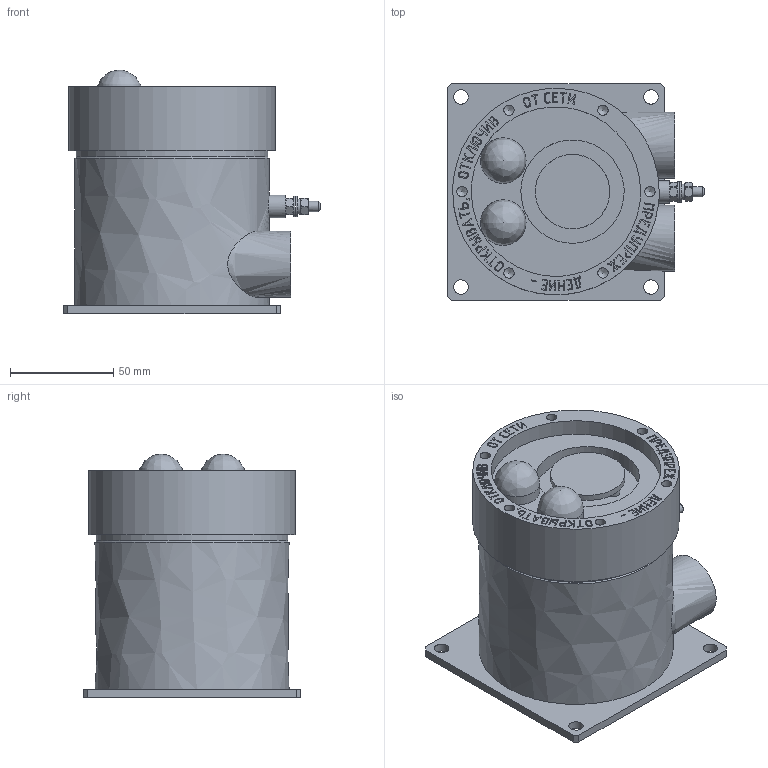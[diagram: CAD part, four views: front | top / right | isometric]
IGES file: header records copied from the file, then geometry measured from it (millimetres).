
Global section: file name: ExОПЗС стальной М20; native system: Autodesk Inventor 2016; preprocessor: unknown; author: hudyakovak; date: 20180131.151551; units: millimetre
Bounding box: 124.4 x 105 x 118 mm (x, y, z)
Volume: 755929.9 mm3; surface area: 77118.4 mm2
Topology: 2 solids, 2 shells, 751 faces, 2052 edges, 1376 vertices
Faces by surface type: bspline 751
